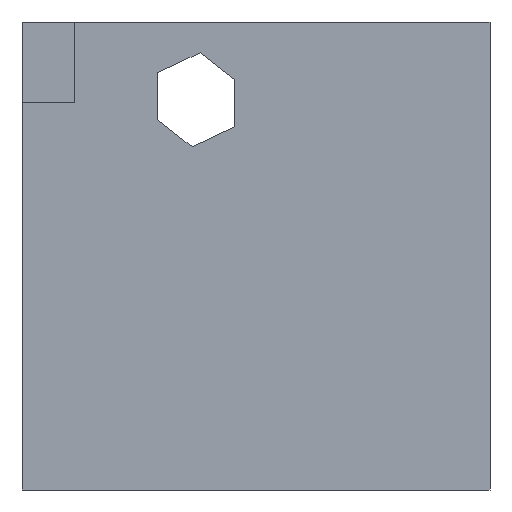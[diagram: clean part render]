
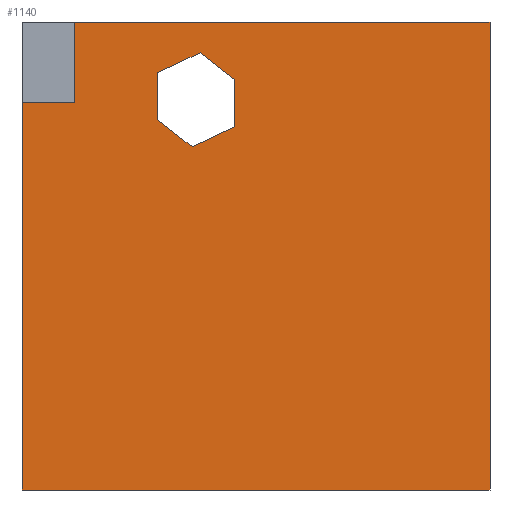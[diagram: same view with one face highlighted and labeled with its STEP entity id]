
A CAD part, left-side view. The second image highlights one B-rep face of the part: STEP entity #1140.
In plain terms, the highlighted planar face has unit normal (-1, 0, 0).
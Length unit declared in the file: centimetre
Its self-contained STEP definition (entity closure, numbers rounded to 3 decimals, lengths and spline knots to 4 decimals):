
#9 = LINE ( 'NONE', #1225, #991 ) ;
#13 = CARTESIAN_POINT ( 'NONE',  ( 0., 545.2094, 776.1644 ) ) ;
#22 = VERTEX_POINT ( 'NONE', #116 ) ;
#26 = ORIENTED_EDGE ( 'NONE', *, *, #1160, .T. ) ;
#29 = VECTOR ( 'NONE', #552, 100. ) ;
#35 = LINE ( 'NONE', #1043, #628 ) ;
#38 = EDGE_CURVE ( 'NONE', #219, #484, #906, .T. ) ;
#43 = DIRECTION ( 'NONE',  ( 1., 0., 0. ) ) ;
#48 = CARTESIAN_POINT ( 'NONE',  ( 0., 545.2094, 876.6295 ) ) ;
#61 = LINE ( 'NONE', #839, #29 ) ;
#71 = LINE ( 'NONE', #476, #338 ) ;
#84 = CARTESIAN_POINT ( 'NONE',  ( 0., 636.5171, 733.3835 ) ) ;
#103 = ORIENTED_EDGE ( 'NONE', *, *, #143, .F. ) ;
#116 = CARTESIAN_POINT ( 'NONE',  ( 0., 0., 0. ) ) ;
#125 = EDGE_CURVE ( 'NONE', #178, #996, #35, .T. ) ;
#143 = EDGE_CURVE ( 'NONE', #447, #433, #356, .T. ) ;
#148 = CARTESIAN_POINT ( 'NONE',  ( 0., 887.8152, 827.7777 ) ) ;
#159 = LINE ( 'NONE', #1166, #1205 ) ;
#161 = DIRECTION ( 'NONE',  ( 0., 0.789, 0.614 ) ) ;
#176 = CARTESIAN_POINT ( 'NONE',  ( 0., 1000., 0. ) ) ;
#178 = VERTEX_POINT ( 'NONE', #537 ) ;
#179 = DIRECTION ( 'NONE',  ( 0., 0., -1. ) ) ;
#199 = EDGE_CURVE ( 'NONE', #455, #22, #61, .T. ) ;
#206 = CARTESIAN_POINT ( 'NONE',  ( 0., 0., 1000. ) ) ;
#219 = VERTEX_POINT ( 'NONE', #741 ) ;
#262 = EDGE_CURVE ( 'NONE', #774, #447, #445, .T. ) ;
#307 = VECTOR ( 'NONE', #922, 100. ) ;
#338 = VECTOR ( 'NONE', #872, 100. ) ;
#342 = CARTESIAN_POINT ( 'NONE',  ( 0., 619.308, 934.3139 ) ) ;
#356 = LINE ( 'NONE', #342, #812 ) ;
#358 = DIRECTION ( 'NONE',  ( 0., 0., -1. ) ) ;
#380 = ORIENTED_EDGE ( 'NONE', *, *, #955, .F. ) ;
#421 = ORIENTED_EDGE ( 'NONE', *, *, #577, .F. ) ;
#429 = VECTOR ( 'NONE', #721, 100. ) ;
#433 = VERTEX_POINT ( 'NONE', #843 ) ;
#441 = EDGE_CURVE ( 'NONE', #914, #1174, #953, .T. ) ;
#445 = LINE ( 'NONE', #48, #1022 ) ;
#447 = VERTEX_POINT ( 'NONE', #1093 ) ;
#455 = VERTEX_POINT ( 'NONE', #176 ) ;
#476 = CARTESIAN_POINT ( 'NONE',  ( 0., 636.5171, 733.3835 ) ) ;
#477 = EDGE_LOOP ( 'NONE', ( #380, #1073, #26, #578, #646, #1106 ) ) ;
#484 = VERTEX_POINT ( 'NONE', #84 ) ;
#490 = ORIENTED_EDGE ( 'NONE', *, *, #703, .F. ) ;
#515 = LINE ( 'NONE', #808, #1182 ) ;
#537 = CARTESIAN_POINT ( 'NONE',  ( 0., 887.8152, 1000. ) ) ;
#552 = DIRECTION ( 'NONE',  ( 0., -1., 0. ) ) ;
#554 = CARTESIAN_POINT ( 'NONE',  ( 0., 1000., 1000. ) ) ;
#556 = VECTOR ( 'NONE', #945, 100. ) ;
#577 = EDGE_CURVE ( 'NONE', #484, #1187, #71, .T. ) ;
#578 = ORIENTED_EDGE ( 'NONE', *, *, #199, .T. ) ;
#586 = CARTESIAN_POINT ( 'NONE',  ( 0., 710.6157, 891.533 ) ) ;
#613 = LINE ( 'NONE', #13, #429 ) ;
#621 = ORIENTED_EDGE ( 'NONE', *, *, #38, .F. ) ;
#628 = VECTOR ( 'NONE', #932, 100. ) ;
#646 = ORIENTED_EDGE ( 'NONE', *, *, #677, .F. ) ;
#648 = DIRECTION ( 'NONE',  ( 0., 0., -1. ) ) ;
#676 = LINE ( 'NONE', #586, #1167 ) ;
#677 = EDGE_CURVE ( 'NONE', #996, #22, #515, .T. ) ;
#703 = EDGE_CURVE ( 'NONE', #1187, #774, #613, .T. ) ;
#707 = CARTESIAN_POINT ( 'NONE',  ( 0., 710.6157, 791.0679 ) ) ;
#721 = DIRECTION ( 'NONE',  ( 0., 0., 1. ) ) ;
#741 = CARTESIAN_POINT ( 'NONE',  ( 0., 710.6157, 791.0679 ) ) ;
#770 = FACE_OUTER_BOUND ( 'NONE', #477, .T. ) ;
#774 = VERTEX_POINT ( 'NONE', #819 ) ;
#775 = ORIENTED_EDGE ( 'NONE', *, *, #1250, .F. ) ;
#808 = CARTESIAN_POINT ( 'NONE',  ( 0., 0., 1000. ) ) ;
#812 = VECTOR ( 'NONE', #1260, 100. ) ;
#819 = CARTESIAN_POINT ( 'NONE',  ( 0., 545.2094, 876.6295 ) ) ;
#839 = CARTESIAN_POINT ( 'NONE',  ( 0., 1000., 0. ) ) ;
#843 = CARTESIAN_POINT ( 'NONE',  ( 0., 710.6157, 891.533 ) ) ;
#861 = FACE_BOUND ( 'NONE', #979, .T. ) ;
#872 = DIRECTION ( 'NONE',  ( 0., -0.906, 0.424 ) ) ;
#884 = AXIS2_PLACEMENT_3D ( 'NONE', #554, #43, #648 ) ;
#906 = LINE ( 'NONE', #707, #307 ) ;
#914 = VERTEX_POINT ( 'NONE', #1092 ) ;
#922 = DIRECTION ( 'NONE',  ( 0., -0.789, -0.614 ) ) ;
#932 = DIRECTION ( 'NONE',  ( 0., -1., 0. ) ) ;
#942 = ORIENTED_EDGE ( 'NONE', *, *, #262, .F. ) ;
#943 = PLANE ( 'NONE',  #884 ) ;
#945 = DIRECTION ( 'NONE',  ( 0., -1., 0. ) ) ;
#953 = LINE ( 'NONE', #1243, #556 ) ;
#955 = EDGE_CURVE ( 'NONE', #1174, #178, #9, .T. ) ;
#979 = EDGE_LOOP ( 'NONE', ( #775, #103, #942, #490, #421, #621 ) ) ;
#991 = VECTOR ( 'NONE', #1031, 100. ) ;
#996 = VERTEX_POINT ( 'NONE', #206 ) ;
#1022 = VECTOR ( 'NONE', #161, 100. ) ;
#1031 = DIRECTION ( 'NONE',  ( 0., 0., 1. ) ) ;
#1043 = CARTESIAN_POINT ( 'NONE',  ( 0., 1000., 1000. ) ) ;
#1073 = ORIENTED_EDGE ( 'NONE', *, *, #441, .F. ) ;
#1092 = CARTESIAN_POINT ( 'NONE',  ( 0., 1000., 827.7777 ) ) ;
#1093 = CARTESIAN_POINT ( 'NONE',  ( 0., 619.308, 934.3139 ) ) ;
#1106 = ORIENTED_EDGE ( 'NONE', *, *, #125, .F. ) ;
#1140 = ADVANCED_FACE ( 'NONE', ( #861, #770 ), #943, .F. ) ;
#1160 = EDGE_CURVE ( 'NONE', #914, #455, #159, .T. ) ;
#1166 = CARTESIAN_POINT ( 'NONE',  ( 0., 1000., 1000. ) ) ;
#1167 = VECTOR ( 'NONE', #179, 100. ) ;
#1174 = VERTEX_POINT ( 'NONE', #148 ) ;
#1182 = VECTOR ( 'NONE', #1220, 100. ) ;
#1187 = VERTEX_POINT ( 'NONE', #1262 ) ;
#1205 = VECTOR ( 'NONE', #358, 100. ) ;
#1220 = DIRECTION ( 'NONE',  ( 0., 0., -1. ) ) ;
#1225 = CARTESIAN_POINT ( 'NONE',  ( 0., 887.8152, 827.7777 ) ) ;
#1243 = CARTESIAN_POINT ( 'NONE',  ( 0., 887.8152, 827.7777 ) ) ;
#1250 = EDGE_CURVE ( 'NONE', #433, #219, #676, .T. ) ;
#1260 = DIRECTION ( 'NONE',  ( 0., 0.906, -0.424 ) ) ;
#1262 = CARTESIAN_POINT ( 'NONE',  ( 0., 545.2094, 776.1644 ) ) ;
